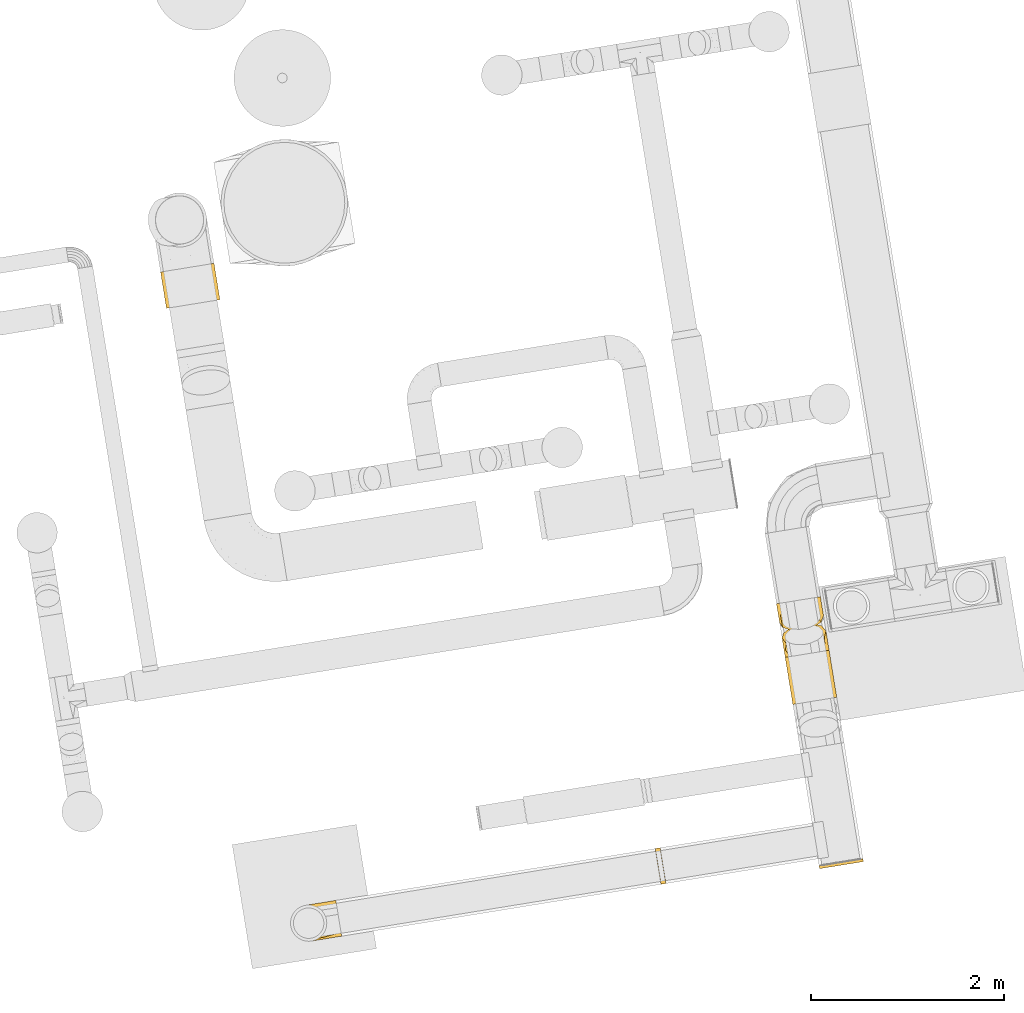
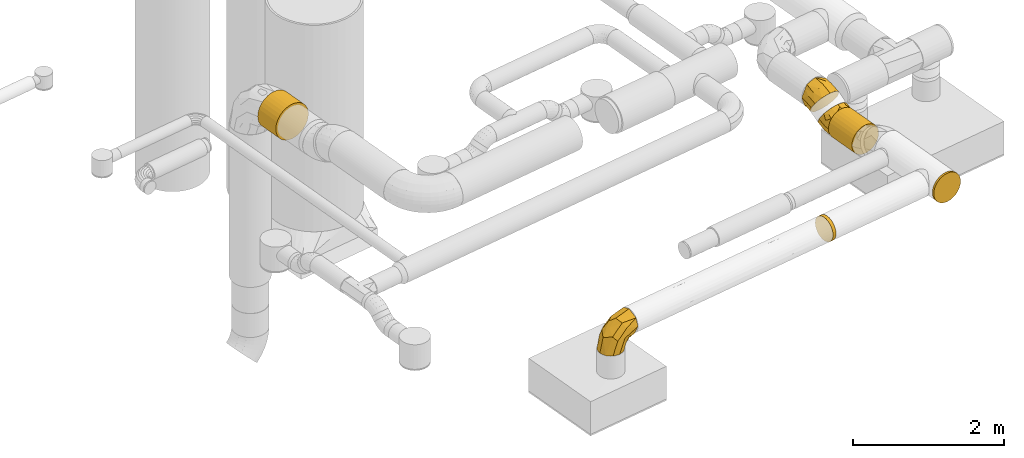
# One storey, part 7 of 39: 7 coverings.
"""IFC2X3 building model written with IfcOpenShell, lengths in millimetres."""

from ifc_helpers import new_model, entity, si_unit, converted_unit, derived_unit, direction, frame, origin, origin_with_axes, place, context, subcontext, project, spatial, faceted_brep, type_object, element, save


model = new_model("IFC2X3")

# Units and contexts
model_context = context("Model", 3, precision=0.01, world=origin(), true_north=direction((6.12323399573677e-17, 1.0)))
plan_context = context("Plan", 3, precision=1e-05, world=origin_with_axes())
body_context = subcontext(model_context, "Body", "Model", "MODEL_VIEW")
ifc_project = project(units=[converted_unit("PLANEANGLEUNIT", "DEGREE", entity("IfcPositiveLengthMeasure", 0.0174532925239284), si_unit("PLANEANGLEUNIT", "RADIAN"), dimensions=[0, 0, 0, 0, 0, 0, 0]), si_unit("AREAUNIT", "SQUARE_METRE"), si_unit("LENGTHUNIT", "METRE", prefix="MILLI"), si_unit("MASSUNIT", "GRAM", prefix="KILO"), si_unit("POWERUNIT", "WATT"), si_unit("PRESSUREUNIT", "PASCAL", prefix="KILO"), si_unit("FORCEUNIT", "NEWTON", prefix="KILO"), si_unit("ELECTRICVOLTAGEUNIT", "VOLT"), si_unit("ELECTRICCURRENTUNIT", "AMPERE"), si_unit("THERMODYNAMICTEMPERATUREUNIT", "DEGREE_CELSIUS"), si_unit("TIMEUNIT", "SECOND"), si_unit("VOLUMEUNIT", "CUBIC_METRE"), derived_unit("LINEARVELOCITYUNIT", [(si_unit("LENGTHUNIT", "METRE"), 1), (si_unit("TIMEUNIT", "SECOND"), -1)]), derived_unit("VOLUMETRICFLOWRATEUNIT", [(si_unit("VOLUMEUNIT", "CUBIC_METRE"), 1), (si_unit("TIMEUNIT", "SECOND"), -1)]), derived_unit("THERMALTRANSMITTANCEUNIT", [(si_unit("POWERUNIT", "WATT"), 1), (si_unit("THERMODYNAMICTEMPERATUREUNIT", "KELVIN"), -1), (si_unit("AREAUNIT", "SQUARE_METRE"), -1)]), derived_unit("SOUNDPRESSUREUNIT", [(si_unit("PRESSUREUNIT", "PASCAL"), 1)])], contexts=[model_context, plan_context])

# Site, building, storey
site_placement = place(None, frame((-0.00071070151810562, 0.00438415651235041, 0.0), z_axis=(0.0, 0.0, 1.0), x_axis=(-0.160236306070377, 0.987078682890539, 0.0)))
site = spatial("IfcSite", under=ifc_project, at=site_placement, Name="Default", CompositionType="ELEMENT")
building_placement = place(site_placement, origin_with_axes())
building = spatial("IfcBuilding", under=site, at=building_placement, CompositionType="ELEMENT")
storey_placement = place(building_placement, frame((0.0, 0.0, 50999.9999999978), z_axis=(0.0, 0.0, 1.0), x_axis=(1.0, 0.0, 0.0)))
storey = spatial("IfcBuildingStorey", under=building, at=storey_placement, Name="Nivå D", CompositionType="ELEMENT", Elevation=50999.9999999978)

# Coverings
covering_type_1 = type_object("IfcCoveringType", Name="Duct Insulation:MuT030", PredefinedType="INSULATION")
covering_1_placement = place(storey_placement, frame((775744.369644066, -595318.775771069, 2868.40472776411), z_axis=(0.0, 0.0, 1.0), x_axis=(1.0, 0.0, 0.0)))
element("IfcCovering", 1, at=covering_1_placement, inside=storey, type_object=covering_type_1, Name="Duct Insulation:MuT030", ObjectType="Duct Insulation:MuT030", PredefinedType="INSULATION", context=body_context, shape_type="Brep", body=[
    faceted_brep([(0.0, 48.7837807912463, 126.035606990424), (0.0, 22.9090031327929, 174.443911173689), (0.0, 6.97539372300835, 226.969982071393), (0.0, 1.59527223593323, 281.595272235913), (0.0, 6.97539372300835, 336.220562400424), (0.0, 22.9090031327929, 388.746633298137), (0.0, 48.7837807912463, 437.154937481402), (0.0, 83.6053735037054, 479.585170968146), (0.0, 126.035606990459, 514.406763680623), (0.0, 174.443911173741, 540.281541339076), (0.0, 226.969982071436, 556.215150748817), (0.0, 281.595272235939, 561.59527223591), (0.0, 336.220562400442, 556.215150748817), (0.0, 388.746633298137, 540.281541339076), (0.0, 437.154937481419, 514.406763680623), (0.0, 479.585170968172, 479.585170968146), (0.0, 514.406763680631, 437.154937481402), (0.0, 540.281541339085, 388.746633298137), (0.0, 556.215150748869, 336.220562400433), (0.0, 561.595272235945, 281.595272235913), (0.0, 556.215150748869, 226.969982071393), (0.0, 540.281541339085, 174.443911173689), (0.0, 514.406763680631, 126.035606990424), (0.0, 479.585170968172, 83.6053735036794), (0.0, 437.154937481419, 48.783780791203), (0.0, 388.746633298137, 22.9090031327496), (0.0, 336.220562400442, 6.97539372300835), (0.0, 281.595272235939, 1.5952722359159), (0.0, 226.969982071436, 6.97539372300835), (0.0, 174.443911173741, 22.9090031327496), (0.0, 126.035606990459, 48.783780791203), (0.0, 83.6053735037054, 83.6053735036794), (380.196394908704, 22.9090031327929, 388.746633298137), (380.196394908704, 6.97539372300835, 336.220562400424), (380.196394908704, 1.59527223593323, 281.595272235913), (380.196394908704, 6.97539372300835, 226.969982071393), (380.196394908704, 22.9090031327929, 174.443911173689), (380.196394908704, 48.7837807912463, 126.035606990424), (380.196394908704, 83.6053735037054, 83.6053735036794), (380.196394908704, 126.035606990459, 48.783780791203), (380.196394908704, 174.443911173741, 22.9090031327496), (380.196394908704, 226.969982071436, 6.97539372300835), (380.196394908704, 281.595272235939, 1.5952722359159), (380.196394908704, 336.220562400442, 6.97539372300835), (380.196394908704, 388.746633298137, 22.9090031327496), (380.196394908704, 437.154937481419, 48.783780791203), (380.196394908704, 479.585170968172, 83.6053735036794), (380.196394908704, 514.406763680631, 126.035606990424), (380.196394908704, 540.281541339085, 174.443911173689), (380.196394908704, 556.215150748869, 226.969982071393), (380.196394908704, 561.595272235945, 281.595272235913), (380.196394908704, 556.215150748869, 336.220562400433), (380.196394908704, 540.281541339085, 388.746633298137), (380.196394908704, 514.406763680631, 437.154937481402), (380.196394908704, 479.585170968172, 479.585170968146), (380.196394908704, 437.154937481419, 514.406763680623), (380.196394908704, 388.746633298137, 540.281541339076), (380.196394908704, 336.220562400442, 556.215150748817), (380.196394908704, 281.595272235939, 561.59527223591), (380.196394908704, 226.969982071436, 556.215150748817), (380.196394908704, 174.443911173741, 540.281541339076), (380.196394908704, 126.035606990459, 514.406763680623), (380.196394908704, 83.6053735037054, 479.585170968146), (380.196394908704, 48.7837807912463, 437.154937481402)], [[[0, 1, 2, 3, 4, 5, 6, 7, 8, 9, 10, 11, 12, 13, 14, 15, 16, 17, 18, 19, 20, 21, 22, 23, 24, 25, 26, 27, 28, 29, 30, 31]], [[32, 33, 34, 35, 36, 37, 38, 39, 40, 41, 42, 43, 44, 45, 46, 47, 48, 49, 50, 51, 52, 53, 54, 55, 56, 57, 58, 59, 60, 61, 62, 63]], [[50, 49, 20, 19]], [[49, 48, 21, 20]], [[22, 21, 48, 47]], [[23, 22, 47, 46]], [[25, 24, 45, 44]], [[26, 25, 44, 43]], [[27, 26, 43, 42]], [[46, 45, 24, 23]], [[28, 27, 42, 41]], [[29, 28, 41, 40]], [[30, 29, 40, 39]], [[39, 38, 31, 30]], [[1, 0, 37, 36]], [[2, 1, 36, 35]], [[3, 2, 35, 34]], [[38, 37, 0, 31]], [[4, 3, 34, 33]], [[5, 4, 33, 32]], [[6, 5, 32, 63]], [[63, 62, 7, 6]], [[9, 8, 61, 60]], [[10, 9, 60, 59]], [[11, 10, 59, 58]], [[62, 61, 8, 7]], [[12, 11, 58, 57]], [[13, 12, 57, 56]], [[14, 13, 56, 55]], [[55, 54, 15, 14]], [[17, 16, 53, 52]], [[18, 17, 52, 51]], [[19, 18, 51, 50]], [[54, 53, 16, 15]]]),
])
covering_type_2 = type_object("IfcCoveringType", Name="Duct Insulation:EI 60-30", PredefinedType="INSULATION")
covering_2_placement = place(storey_placement, frame((768944.032653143, -600954.500350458, 3018.40472776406), z_axis=(0.0, 0.0, 1.0), x_axis=(1.0, 0.0, 0.0)))
element("IfcCovering", 2, at=covering_2_placement, inside=storey, type_object=covering_type_2, Name="Duct Insulation:EI 60-30", ObjectType="Duct Insulation:EI 60-30", PredefinedType="INSULATION", context=body_context, shape_type="Brep", body=[
    faceted_brep([(0.0, 180.415457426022, 7.36185243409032), (0.0, 131.802012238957, 24.3724326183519), (0.0, 88.1926178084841, 51.774031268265), (0.0, 51.7740312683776, 88.1926178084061), (0.0, 24.3724326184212, 131.802012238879), (0.0, 7.36185243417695, 180.415457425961), (0.0, 1.59527223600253, 231.595272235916), (0.0, 7.36185243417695, 282.77508704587), (0.0, 24.3724326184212, 331.388532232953), (0.0, 51.7740312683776, 374.997926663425), (0.0, 88.1926178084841, 411.416513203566), (0.0, 131.802012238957, 438.818111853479), (0.0, 180.415457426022, 455.828692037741), (0.0, 231.595272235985, 461.595272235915), (0.0, 282.775087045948, 455.828692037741), (0.0, 331.388532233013, 438.818111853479), (0.0, 374.997926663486, 411.416513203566), (0.0, 411.416513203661, 374.997926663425), (0.0, 438.818111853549, 331.388532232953), (0.0, 455.828692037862, 282.77508704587), (0.0, 461.595272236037, 231.595272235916), (0.0, 455.828692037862, 180.415457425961), (0.0, 438.818111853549, 131.802012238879), (0.0, 411.416513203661, 88.1926178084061), (0.0, 374.997926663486, 51.774031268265), (0.0, 331.388532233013, 24.3724326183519), (0.0, 282.775087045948, 7.36185243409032), (0.0, 231.595272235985, 1.5952722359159), (30.8000000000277, 282.775087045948, 455.828692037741), (30.8000000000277, 231.595272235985, 461.595272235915), (30.8000000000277, 180.415457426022, 455.828692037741), (30.8000000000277, 131.802012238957, 438.818111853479), (30.8000000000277, 88.1926178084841, 411.416513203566), (30.8000000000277, 51.7740312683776, 374.997926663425), (30.8000000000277, 24.3724326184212, 331.388532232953), (30.8000000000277, 7.36185243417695, 282.77508704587), (30.8000000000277, 1.59527223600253, 231.595272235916), (30.8000000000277, 7.36185243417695, 180.415457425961), (30.8000000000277, 24.3724326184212, 131.802012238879), (30.8000000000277, 51.7740312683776, 88.1926178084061), (30.8000000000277, 88.1926178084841, 51.774031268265), (30.8000000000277, 131.802012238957, 24.3724326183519), (30.8000000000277, 180.415457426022, 7.36185243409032), (30.8000000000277, 231.595272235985, 1.5952722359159), (30.8000000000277, 282.775087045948, 7.36185243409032), (30.8000000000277, 331.388532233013, 24.3724326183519), (30.8000000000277, 374.997926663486, 51.774031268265), (30.8000000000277, 411.416513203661, 88.1926178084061), (30.8000000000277, 438.818111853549, 131.802012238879), (30.8000000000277, 455.828692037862, 180.415457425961), (30.8000000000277, 461.595272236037, 231.595272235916), (30.8000000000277, 455.828692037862, 282.77508704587), (30.8000000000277, 438.818111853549, 331.388532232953), (30.8000000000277, 411.416513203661, 374.997926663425), (30.8000000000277, 374.997926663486, 411.416513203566), (30.8000000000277, 331.388532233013, 438.818111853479)], [[[0, 1, 2, 3, 4, 5, 6, 7, 8, 9, 10, 11, 12, 13, 14, 15, 16, 17, 18, 19, 20, 21, 22, 23, 24, 25, 26, 27]], [[28, 29, 30, 31, 32, 33, 34, 35, 36, 37, 38, 39, 40, 41, 42, 43, 44, 45, 46, 47, 48, 49, 50, 51, 52, 53, 54, 55]], [[7, 6, 36, 35]], [[35, 34, 8, 7]], [[33, 9, 8, 34]], [[33, 32, 10, 9]], [[11, 10, 32, 31]], [[11, 31, 30, 12]], [[12, 30, 29, 13]], [[14, 13, 29, 28]], [[28, 55, 15, 14]], [[54, 16, 15, 55]], [[54, 53, 17, 16]], [[53, 52, 18, 17]], [[52, 51, 19, 18]], [[19, 51, 50, 20]], [[21, 20, 50, 49]], [[49, 48, 22, 21]], [[47, 23, 22, 48]], [[47, 46, 24, 23]], [[25, 24, 46, 45]], [[44, 43, 27, 26]], [[26, 25, 45, 44]], [[0, 27, 43, 42]], [[42, 41, 1, 0]], [[40, 2, 1, 41]], [[40, 39, 3, 2]], [[4, 3, 39, 38]], [[38, 37, 5, 4]], [[36, 6, 5, 37]]]),
])
covering_3_placement = place(storey_placement, frame((769045.737380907, -598901.480498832, 3060.90472776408), z_axis=(0.0, 0.0, 1.0), x_axis=(1.0, 0.0, 0.0)))
element("IfcCovering", 3, at=covering_3_placement, inside=storey, type_object=covering_type_2, Name="Duct Insulation:EI 60-30", ObjectType="Duct Insulation:EI 60-30", PredefinedType="INSULATION", context=body_context, shape_type="Brep", body=[
    faceted_brep([(270.448473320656, 0.0, 20.1636095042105), (305.999610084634, 0.0, 42.5018692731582), (335.688675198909, 0.0, 72.1909343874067), (358.026934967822, 0.0, 107.742071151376), (371.894255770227, 0.0, 147.372597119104), (376.595272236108, 0.0, 189.095272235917), (371.894255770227, 0.0, 230.817947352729), (358.026934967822, 0.0, 270.448473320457), (335.688675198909, 0.0, 305.999610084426), (305.999610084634, 0.0, 335.688675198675), (270.448473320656, 0.0, 358.026934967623), (230.817947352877, 0.0, 371.894255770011), (189.095272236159, 0.0, 376.595272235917), (147.372597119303, 0.0, 371.894255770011), (107.742071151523, 0.0, 358.026934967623), (72.1909343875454, 0.0, 335.688675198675), (42.5018692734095, 0.0, 305.999610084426), (20.1636095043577, 0.0, 270.448473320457), (6.29628870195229, 0.0, 230.817947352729), (1.59527223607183, 0.0, 189.095272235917), (6.29628870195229, 0.0, 147.372597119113), (20.1636095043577, 0.0, 107.742071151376), (42.5018692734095, 0.0, 72.1909343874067), (72.1909343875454, 0.0, 42.5018692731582), (107.742071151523, 0.0, 20.1636095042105), (147.372597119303, 0.0, 6.29628870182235), (189.095272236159, 0.0, 1.5952722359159), (230.817947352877, 0.0, 6.29628870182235), (230.817947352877, 52.0, 371.894255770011), (270.448473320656, 52.0, 358.026934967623), (305.999610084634, 52.0, 335.688675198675), (335.688675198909, 52.0, 305.999610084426), (358.026934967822, 52.0, 270.448473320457), (371.894255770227, 52.0, 230.817947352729), (376.595272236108, 52.0, 189.095272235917), (371.894255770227, 52.0, 147.372597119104), (358.026934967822, 52.0, 107.742071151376), (335.688675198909, 52.0, 72.1909343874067), (305.999610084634, 52.0, 42.5018692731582), (270.448473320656, 52.0, 20.1636095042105), (230.817947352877, 52.0, 6.29628870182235), (189.095272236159, 52.0, 1.5952722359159), (147.372597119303, 52.0, 6.29628870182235), (107.742071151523, 52.0, 20.1636095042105), (72.1909343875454, 52.0, 42.5018692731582), (42.5018692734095, 52.0, 72.1909343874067), (20.1636095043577, 52.0, 107.742071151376), (6.29628870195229, 52.0, 147.372597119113), (1.59527223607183, 52.0, 189.095272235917), (6.29628870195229, 52.0, 230.817947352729), (20.1636095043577, 52.0, 270.448473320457), (42.5018692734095, 52.0, 305.999610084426), (72.1909343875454, 52.0, 335.688675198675), (107.742071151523, 52.0, 358.026934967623), (147.372597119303, 52.0, 371.894255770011), (189.095272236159, 52.0, 376.595272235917)], [[[0, 1, 2, 3, 4, 5, 6, 7, 8, 9, 10, 11, 12, 13, 14, 15, 16, 17, 18, 19, 20, 21, 22, 23, 24, 25, 26, 27]], [[28, 29, 30, 31, 32, 33, 34, 35, 36, 37, 38, 39, 40, 41, 42, 43, 44, 45, 46, 47, 48, 49, 50, 51, 52, 53, 54, 55]], [[6, 5, 34, 33]], [[33, 32, 7, 6]], [[31, 8, 7, 32]], [[31, 30, 9, 8]], [[30, 29, 10, 9]], [[29, 28, 11, 10]], [[11, 28, 55, 12]], [[13, 12, 55, 54]], [[54, 53, 14, 13]], [[52, 15, 14, 53]], [[52, 51, 16, 15]], [[17, 16, 51, 50]], [[49, 48, 19, 18]], [[18, 17, 50, 49]], [[20, 19, 48, 47]], [[47, 46, 21, 20]], [[45, 22, 21, 46]], [[45, 44, 23, 22]], [[24, 23, 44, 43]], [[43, 42, 25, 24]], [[41, 26, 25, 42]], [[27, 26, 41, 40]], [[40, 39, 0, 27]], [[38, 1, 0, 39]], [[38, 37, 2, 1]], [[3, 2, 37, 36]], [[36, 35, 4, 3]], [[34, 5, 4, 35]]]),
])
covering_4_placement = place(storey_placement, frame((769045.737380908, -595506.342013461, 3439.09527223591), z_axis=(0.0, 0.0, 1.0), x_axis=(1.0, 0.0, 0.0)))
element("IfcCovering", 4, at=covering_4_placement, inside=storey, type_object=covering_type_2, Name="Duct Insulation:EI 60-30", ObjectType="Duct Insulation:EI 60-30", PredefinedType="INSULATION", context=body_context, shape_type="Brep", body=[
    faceted_brep([(1.59527223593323, 316.595272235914, -504.095272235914), (26.7146214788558, 410.343734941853, -504.095272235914), (95.342305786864, 478.973322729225, -504.095272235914), (189.095272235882, 504.095272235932, -504.095272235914), (282.84373494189, 478.97592299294, -504.095272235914), (351.473322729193, 410.348238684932, -504.095272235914), (364.034297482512, 363.471755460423, -504.095272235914), (376.595272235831, 316.595272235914, -504.095272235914), (351.475922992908, 222.846809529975, -504.095272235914), (282.8482386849, 154.217221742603, -504.095272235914), (189.095272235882, 129.095272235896, -504.095272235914), (95.3468095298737, 154.214621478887, -504.095272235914), (26.7172217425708, 222.842305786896, -504.095272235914), (1.59527223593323, 1.59527223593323, -189.095272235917), (33.8659067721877, 1.59527223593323, -256.105935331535), (72.1909343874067, 1.59527223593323, -335.688675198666), (130.643103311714, 1.59527223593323, -356.141973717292), (189.095272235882, 1.59527223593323, -376.595272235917), (266.60688616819, 1.59527223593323, -339.267646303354), (335.688675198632, 1.59527223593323, -305.999610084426), (352.373644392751, 1.59527223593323, -258.316707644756), (376.595272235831, 1.59527223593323, -189.095272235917), (341.297441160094, 1.59527223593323, -115.798570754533), (305.999610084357, 1.59527223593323, -42.5018692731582), (189.095272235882, 1.59527223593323, -1.5952722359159), (115.798570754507, 1.59527223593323, -36.8931033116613), (42.5018692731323, 1.59527223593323, -72.1909343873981), (189.095272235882, 229.725498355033, -56.3644938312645), (80.7622844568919, 208.378214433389, -84.2153930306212), (20.5849416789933, 183.96577538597, -151.211987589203), (1.59527223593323, 224.333908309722, -281.356636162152), (1.59527223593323, 154.022949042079, -252.232883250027), (1.59527223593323, 83.7119897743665, -223.109130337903), (74.6624434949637, 376.606377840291, -231.648198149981), (189.095272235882, 339.525774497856, -166.164769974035), (19.0854923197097, 336.325760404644, -296.126644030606), (189.095272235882, 449.326050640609, -275.965046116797), (1.59527223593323, 282.581411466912, -421.978548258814), (1.59527223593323, 253.457659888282, -351.667592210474), (124.548308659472, 123.259939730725, -436.955846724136), (17.5972251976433, 83.9256535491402, -279.503620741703), (122.504255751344, 64.2979349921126, -379.231327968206), (189.095272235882, 76.5378919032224, -400.945605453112), (62.120628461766, 103.284122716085, -359.175967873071), (27.7995980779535, 192.193356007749, -395.433577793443), (16.631246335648, 153.7783876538, -316.66745217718), (376.595272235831, 83.7119897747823, -223.109130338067), (376.595272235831, 154.022949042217, -252.232883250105), (346.723480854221, 193.955884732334, -411.552347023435), (253.645401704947, 123.260801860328, -436.955006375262), (335.158718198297, 120.131940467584, -346.205064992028), (376.595272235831, 224.333908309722, -281.356636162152), (269.281224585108, 71.9422894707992, -376.718672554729), (376.595272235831, 282.581411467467, -421.978548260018), (376.595272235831, 253.45765988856, -351.66759221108), (320.628080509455, 202.908650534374, -103.175820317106), (356.392576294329, 289.585853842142, -226.981360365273), (258.925548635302, 291.588624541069, -110.349100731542), (303.525399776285, 376.616702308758, -231.65886909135), (354.220458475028, 376.840757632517, -354.878489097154)], [[[0, 1, 2, 3, 4, 5, 6, 7, 8, 9, 10, 11, 12]], [[13, 14, 15, 16, 17, 18, 19, 20, 21, 22, 23, 24, 25, 26]], [[25, 27, 28]], [[28, 29, 26]], [[29, 13, 26]], [[29, 30, 31, 32, 13]], [[33, 29, 28]], [[25, 24, 27]], [[28, 34, 33]], [[35, 29, 33]], [[36, 3, 2]], [[29, 35, 30]], [[35, 0, 37, 38, 30]], [[33, 2, 1]], [[0, 35, 1]], [[33, 1, 35]], [[28, 26, 25]], [[33, 36, 2]], [[34, 28, 27]], [[34, 36, 33]], [[11, 10, 39]], [[14, 13, 32]], [[40, 32, 31]], [[41, 39, 42]], [[40, 15, 14]], [[40, 14, 32]], [[37, 0, 12, 38]], [[40, 43, 15]], [[12, 44, 38]], [[42, 39, 10]], [[11, 44, 12]], [[40, 45, 43]], [[39, 44, 11]], [[16, 15, 41, 17]], [[45, 44, 43]], [[41, 15, 43]], [[44, 39, 43]], [[44, 30, 38]], [[45, 31, 30]], [[31, 45, 40]], [[44, 45, 30]], [[39, 41, 43]], [[17, 41, 42]], [[46, 21, 20, 19, 47]], [[48, 49, 9]], [[50, 51, 47]], [[9, 8, 48]], [[52, 17, 42]], [[52, 49, 50]], [[18, 50, 19]], [[8, 7, 53, 54]], [[48, 50, 49]], [[51, 50, 48]], [[49, 52, 42]], [[42, 10, 49]], [[8, 54, 48]], [[49, 10, 9]], [[51, 48, 54]], [[50, 18, 52]], [[17, 52, 18]], [[47, 19, 50]], [[55, 23, 22]], [[22, 21, 56]], [[24, 23, 27]], [[36, 57, 58]], [[58, 5, 4]], [[58, 55, 56]], [[7, 6, 5, 59]], [[23, 57, 27]], [[57, 36, 34, 27]], [[59, 51, 54, 53, 7]], [[36, 4, 3]], [[36, 58, 4]], [[57, 55, 58]], [[55, 57, 23]], [[22, 56, 55]], [[59, 58, 56]], [[56, 21, 46, 47, 51]], [[58, 59, 5]], [[59, 56, 51]]]),
])
covering_5_placement = place(storey_placement, frame((771401.827219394, -600954.500350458, 3045.6290464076), z_axis=(0.0, 0.0, 1.0), x_axis=(1.0, 0.0, 0.0)))
element("IfcCovering", 5, at=covering_5_placement, inside=storey, type_object=covering_type_2, Name="Duct Insulation:EI 60-30", ObjectType="Duct Insulation:EI 60-30", PredefinedType="INSULATION", context=body_context, shape_type="Brep", body=[
    faceted_brep([(220.207620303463, 331.384677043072, 21.3192639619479), (231.595272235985, 231.595272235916, 1.59527223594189), (213.967292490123, 109.223875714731, 32.1278287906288), (166.489974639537, 24.3705761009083, 114.360955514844), (116.595272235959, 1.59527223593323, 200.781115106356), (55.4095739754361, 36.851231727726, 306.757853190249), (12.9829241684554, 131.805867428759, 380.242966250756), (1.59527223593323, 231.595272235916, 399.966957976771), (19.223251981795, 353.9666687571, 369.434401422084), (66.700569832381, 438.819968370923, 287.201274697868), (116.595272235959, 461.595272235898, 200.781115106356), (177.780970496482, 426.339312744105, 94.8043770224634), (316.595272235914, 1.59527223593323, 254.370953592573), (316.595272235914, 47.4707667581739, 159.109507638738), (316.595272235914, 88.1926178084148, 74.5497126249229), (316.595272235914, 178.760968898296, 42.8584759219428), (316.595272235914, 231.595272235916, 24.3709535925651), (316.595272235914, 321.505892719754, 67.6696263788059), (316.595272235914, 411.416513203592, 110.968299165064), (316.595272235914, 461.595272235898, 254.370953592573), (316.595272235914, 403.554235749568, 374.894407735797), (316.595272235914, 374.997926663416, 434.192194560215), (316.595272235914, 296.179510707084, 461.771951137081), (316.595272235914, 231.595272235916, 484.370953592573), (316.595272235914, 110.202087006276, 425.911076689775), (316.595272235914, 51.774031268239, 397.773608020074), (316.595272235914, 23.9788597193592, 318.339571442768), (158.261541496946, 79.1216313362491, 404.225276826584), (247.136001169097, 1.59527223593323, 248.294054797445), (194.734053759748, 149.114808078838, 456.872788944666), (191.293330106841, 1.59527223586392, 227.968984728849), (153.539273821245, 231.595272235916, 462.904224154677), (269.854885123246, 121.4514252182, 46.865920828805), (272.596034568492, 231.595272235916, 18.5783440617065), (245.032239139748, 35.2796888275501, 125.243082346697), (239.062677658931, 446.762622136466, 163.538505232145), (248.838206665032, 397.947805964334, 85.8275434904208), (247.136001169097, 461.595272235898, 248.294054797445), (191.293330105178, 461.595272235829, 227.968984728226), (196.938526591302, 440.197928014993, 336.623877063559), (160.918705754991, 390.997024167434, 398.337281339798), (133.460230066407, 317.137307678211, 439.900370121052)], [[[0, 1, 2, 3, 4, 5, 6, 7, 8, 9, 10, 11]], [[12, 13, 14, 15, 16, 17, 18, 19, 20, 21, 22, 23, 24, 25, 26]], [[6, 5, 27]], [[5, 26, 27]], [[28, 26, 5]], [[27, 26, 25]], [[29, 6, 27]], [[5, 4, 30, 28]], [[31, 7, 6]], [[23, 31, 29]], [[28, 12, 26]], [[29, 27, 24]], [[6, 29, 31]], [[24, 27, 25]], [[23, 29, 24]], [[32, 15, 14]], [[30, 4, 3]], [[13, 12, 28]], [[33, 16, 15]], [[28, 34, 13]], [[34, 32, 14]], [[30, 34, 28]], [[2, 32, 34]], [[32, 33, 15]], [[1, 33, 32]], [[13, 34, 14]], [[2, 34, 3]], [[34, 30, 3]], [[32, 2, 1]], [[35, 18, 36]], [[18, 35, 37]], [[33, 0, 17]], [[37, 19, 18]], [[0, 36, 17]], [[33, 1, 0]], [[16, 33, 17]], [[38, 35, 11]], [[35, 38, 37]], [[11, 10, 38]], [[11, 36, 0]], [[36, 18, 17]], [[11, 35, 36]], [[31, 23, 22]], [[39, 40, 20]], [[40, 41, 21]], [[39, 19, 37]], [[39, 37, 38, 10]], [[40, 21, 20]], [[22, 41, 31]], [[41, 7, 31]], [[21, 41, 22]], [[41, 40, 8]], [[40, 39, 9]], [[7, 41, 8]], [[39, 10, 9]], [[19, 39, 20]], [[9, 8, 40]]]),
])
covering_6_placement = place(storey_placement, frame((771156.057703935, -600954.500350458, 2868.40472776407), z_axis=(0.0, 0.0, 1.0), x_axis=(1.0, 0.0, 0.0)))
element("IfcCovering", 6, at=covering_6_placement, inside=storey, type_object=covering_type_2, Name="Duct Insulation:EI 60-30", ObjectType="Duct Insulation:EI 60-30", PredefinedType="INSULATION", context=body_context, shape_type="Brep", body=[
    faceted_brep([(97.9829241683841, 331.384677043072, 464.646961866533), (86.5952722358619, 231.595272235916, 484.370953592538), (104.223251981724, 109.223875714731, 453.838397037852), (151.70056983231, 24.3705761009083, 371.605270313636), (201.595272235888, 1.59527223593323, 285.185110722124), (262.780970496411, 36.851231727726, 179.208372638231), (305.207620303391, 131.805867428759, 105.723259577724), (316.595272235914, 231.595272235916, 85.9992678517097), (298.967292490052, 353.9666687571, 116.531824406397), (251.489974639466, 438.819968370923, 198.764951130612), (201.595272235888, 461.595272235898, 285.185110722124), (140.409573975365, 426.339312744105, 391.161848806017), (1.59527223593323, 1.59527223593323, 231.595272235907), (1.59527223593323, 47.4707667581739, 326.856718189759), (1.59527223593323, 88.1926178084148, 411.416513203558), (1.59527223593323, 178.760968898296, 443.107749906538), (1.59527223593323, 231.595272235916, 461.595272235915), (1.59527223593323, 321.505892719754, 418.296599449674), (1.59527223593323, 411.416513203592, 374.997926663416), (1.59527223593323, 461.595272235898, 231.595272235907), (1.59527223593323, 403.554235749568, 111.071818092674), (1.59527223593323, 374.997926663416, 51.774031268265), (1.59527223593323, 296.179510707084, 24.1942746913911), (1.59527223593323, 231.595272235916, 1.59527223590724), (1.59527223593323, 110.202087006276, 60.0551491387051), (1.59527223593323, 51.774031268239, 88.1926178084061), (1.59527223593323, 23.9788597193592, 167.626654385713), (159.9290029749, 79.1216313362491, 81.7409490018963), (71.0545433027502, 1.59527223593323, 237.672171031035), (123.456490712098, 149.114808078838, 29.0934368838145), (126.897214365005, 1.59527223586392, 257.99724109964), (164.651270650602, 231.595272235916, 23.0620016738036), (48.3356593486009, 121.4514252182, 439.100304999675), (45.594509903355, 231.595272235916, 467.387881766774), (73.1583053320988, 35.2796888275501, 360.723143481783), (79.1278668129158, 446.762622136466, 322.427720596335), (69.3523378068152, 397.947805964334, 400.13868233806), (71.0545433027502, 461.595272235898, 237.672171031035), (126.897214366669, 461.595272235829, 257.997241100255), (121.252017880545, 440.197928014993, 149.342348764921), (157.271838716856, 390.997024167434, 87.6289444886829), (184.73031440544, 317.137307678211, 46.0658557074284)], [[[0, 1, 2, 3, 4, 5, 6, 7, 8, 9, 10, 11]], [[12, 13, 14, 15, 16, 17, 18, 19, 20, 21, 22, 23, 24, 25, 26]], [[6, 5, 27]], [[5, 26, 27]], [[28, 26, 5]], [[27, 26, 25]], [[29, 6, 27]], [[5, 4, 30, 28]], [[31, 7, 6]], [[23, 31, 29]], [[28, 12, 26]], [[29, 27, 24]], [[6, 29, 31]], [[24, 27, 25]], [[23, 29, 24]], [[32, 15, 14]], [[30, 4, 3]], [[13, 12, 28]], [[33, 16, 15]], [[28, 34, 13]], [[34, 32, 14]], [[30, 34, 28]], [[2, 32, 34]], [[32, 33, 15]], [[1, 33, 32]], [[13, 34, 14]], [[2, 34, 3]], [[34, 30, 3]], [[32, 2, 1]], [[35, 18, 36]], [[18, 35, 37]], [[33, 0, 17]], [[37, 19, 18]], [[0, 36, 17]], [[33, 1, 0]], [[16, 33, 17]], [[38, 35, 11]], [[35, 38, 37]], [[11, 10, 38]], [[11, 36, 0]], [[36, 18, 17]], [[11, 35, 36]], [[31, 23, 22]], [[39, 40, 20]], [[40, 41, 21]], [[39, 19, 37]], [[39, 37, 38, 10]], [[40, 21, 20]], [[22, 41, 31]], [[41, 7, 31]], [[21, 41, 22]], [[41, 40, 8]], [[40, 39, 9]], [[7, 41, 8]], [[39, 10, 9]], [[19, 39, 20]], [[9, 8, 40]]]),
])
covering_7_placement = place(storey_placement, frame((770664.640274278, -600954.500350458, 2868.40472776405), z_axis=(0.0, 0.0, 1.0), x_axis=(1.0, 0.0, 0.0)))
element("IfcCovering", 7, at=covering_7_placement, inside=storey, type_object=covering_type_2, Name="Duct Insulation:EI 60-30", ObjectType="Duct Insulation:EI 60-30", PredefinedType="INSULATION", context=body_context, shape_type="Brep", body=[
    faceted_brep([(0.0, 24.3724326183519, 131.802012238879), (0.0, 7.36185243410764, 180.415457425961), (0.0, 1.59527223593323, 231.595272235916), (0.0, 7.36185243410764, 282.77508704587), (0.0, 24.3724326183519, 331.388532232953), (0.0, 51.774031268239, 374.997926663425), (0.0, 88.1926178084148, 411.416513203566), (0.0, 131.802012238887, 438.818111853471), (0.0, 180.415457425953, 455.828692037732), (0.0, 231.595272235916, 461.595272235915), (0.0, 282.775087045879, 455.828692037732), (0.0, 331.388532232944, 438.818111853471), (0.0, 374.997926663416, 411.416513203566), (0.0, 411.416513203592, 374.997926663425), (0.0, 438.818111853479, 331.388532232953), (0.0, 455.828692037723, 282.77508704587), (0.0, 461.595272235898, 231.595272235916), (0.0, 455.828692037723, 180.415457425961), (0.0, 438.818111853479, 131.802012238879), (0.0, 411.416513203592, 88.1926178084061), (0.0, 374.997926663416, 51.774031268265), (0.0, 331.388532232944, 24.3724326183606), (0.0, 282.775087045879, 7.36185243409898), (0.0, 231.595272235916, 1.5952722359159), (0.0, 180.415457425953, 7.36185243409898), (0.0, 131.802012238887, 24.3724326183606), (0.0, 88.1926178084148, 51.774031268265), (0.0, 51.774031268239, 88.1926178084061), (493.01270189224, 88.1926178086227, 51.7740312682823), (493.01270189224, 131.802012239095, 24.3724326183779), (493.01270189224, 180.415457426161, 7.3618524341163), (493.01270189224, 231.595272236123, 1.59527223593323), (493.01270189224, 282.775087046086, 7.3618524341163), (493.01270189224, 331.388532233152, 24.3724326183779), (493.01270189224, 374.997926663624, 51.7740312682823), (493.012701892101, 411.4165132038, 88.1926178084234), (493.012701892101, 438.818111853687, 131.802012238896), (493.012701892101, 455.828692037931, 180.415457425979), (493.012701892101, 461.595272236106, 231.595272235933), (493.012701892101, 455.828692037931, 282.775087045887), (493.012701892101, 438.818111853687, 331.38853223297), (493.012701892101, 411.4165132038, 374.997926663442), (493.01270189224, 374.997926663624, 411.416513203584), (493.01270189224, 331.388532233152, 438.818111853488), (493.01270189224, 282.775087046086, 455.82869203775), (493.01270189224, 231.595272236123, 461.595272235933), (493.01270189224, 180.415457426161, 455.82869203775), (493.01270189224, 131.802012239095, 438.818111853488), (493.01270189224, 88.1926178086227, 411.416513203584), (493.012701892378, 51.7740312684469, 374.997926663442), (493.012701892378, 24.3724326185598, 331.38853223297), (493.012701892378, 7.36185243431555, 282.775087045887), (493.012701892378, 1.59527223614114, 231.595272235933), (493.012701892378, 7.36185243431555, 180.415457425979), (493.012701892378, 24.3724326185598, 131.802012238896), (493.012701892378, 51.7740312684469, 88.1926178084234)], [[[0, 1, 2, 3, 4, 5, 6, 7, 8, 9, 10, 11, 12, 13, 14, 15, 16, 17, 18, 19, 20, 21, 22, 23, 24, 25, 26, 27]], [[28, 29, 30, 31, 32, 33, 34, 35, 36, 37, 38, 39, 40, 41, 42, 43, 44, 45, 46, 47, 48, 49, 50, 51, 52, 53, 54, 55]], [[38, 37, 17, 16]], [[37, 36, 18, 17]], [[19, 18, 36, 35]], [[35, 34, 20, 19]], [[21, 20, 34, 33]], [[22, 21, 33, 32]], [[23, 22, 32, 31]], [[24, 23, 31, 30]], [[25, 24, 30, 29]], [[26, 25, 29, 28]], [[28, 55, 27, 26]], [[0, 27, 55, 54]], [[1, 0, 54, 53]], [[2, 1, 53, 52]], [[3, 2, 52, 51]], [[4, 3, 51, 50]], [[5, 4, 50, 49]], [[49, 48, 6, 5]], [[7, 6, 48, 47]], [[8, 7, 47, 46]], [[9, 8, 46, 45]], [[10, 9, 45, 44]], [[11, 10, 44, 43]], [[12, 11, 43, 42]], [[42, 41, 13, 12]], [[14, 13, 41, 40]], [[15, 14, 40, 39]], [[16, 15, 39, 38]]]),
])

save(model, "model.ifc")
